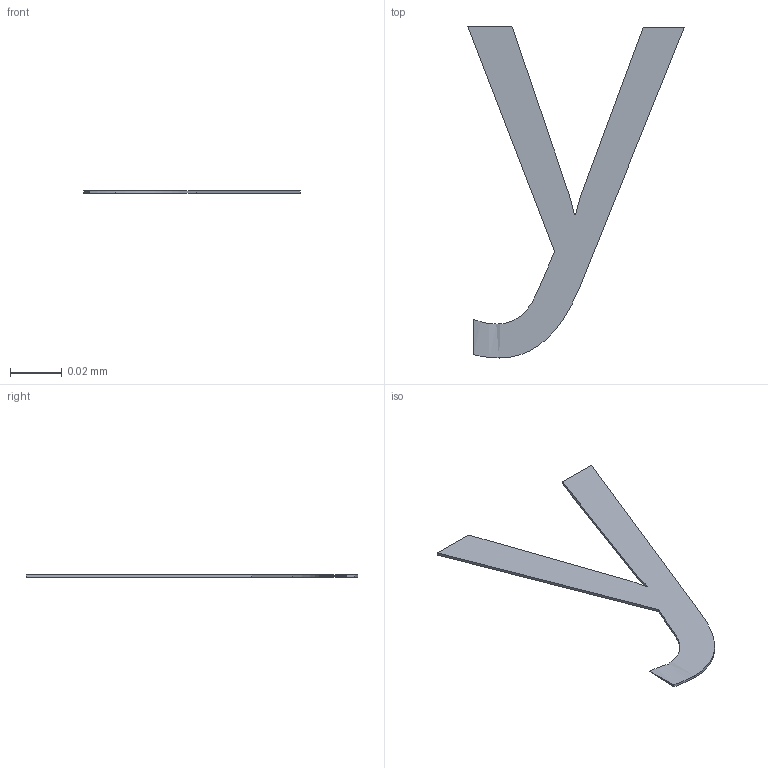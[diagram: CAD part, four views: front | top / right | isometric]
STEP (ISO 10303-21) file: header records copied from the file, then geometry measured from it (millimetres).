
FILE_DESCRIPTION(/* description */ ('STEP AP242 Edition 2','CAx-IF Rec.Pracs.---Representation and Presentation of Product Manufacturing Information (PMI)---4.0---2014-10-13','CAx-IF Rec.Pracs.---3D Tessellated Geometry---0.4---2014-09-14','2;1','CAx-IF Rec.Pracs.---User Defined Attributes---1.5---2016-08-15'),/* implementation_level */ '2;1');
FILE_NAME(/* name */ 'Assembly 1 - SW-SMD_L3.9-W3.0-P4.45~SW-SMD_L3.9-W2.9-H2.0-LS4.8~nxQB (7)',/* time_stamp */ '2026-04-02T09:55:26Z',/* author */ (''),/* organization */ (''),/* preprocessor_version */ 'ST-DEVELOPER v20',/* originating_system */ 'ONSHAPE BY PTC INC, 1.212',/* authorisation */ ' ');
FILE_SCHEMA (('AP242_MANAGED_MODEL_BASED_3D_ENGINEERING_MIM_LF { 1 0 10303 442 3 1 4 }'));
Length unit declared in the file: metre
Products named in the file (1): SW-SMD_L3.9-W3.0-P4.45~SW-SMD_L3.9-W2.9-H2.0-LS4.8~nxQB
Bounding box: 0.08 x 0.13 x 0 mm (x, y, z)
Volume: 0 mm3; surface area: 0 mm2
Topology: 1 solids, 1 shells, 17 faces, 43 edges, 28 vertices
Faces by surface type: plane 12, bspline 4, cylinder 1
Entity records: 669 total; most frequent: CARTESIAN_POINT 141, ORIENTED_EDGE 86, DIRECTION 65, EDGE_CURVE 43, LINE 33, VECTOR 33, VERTEX_POINT 28, PRESENTATION_STYLE_ASSIGNMENT 18
